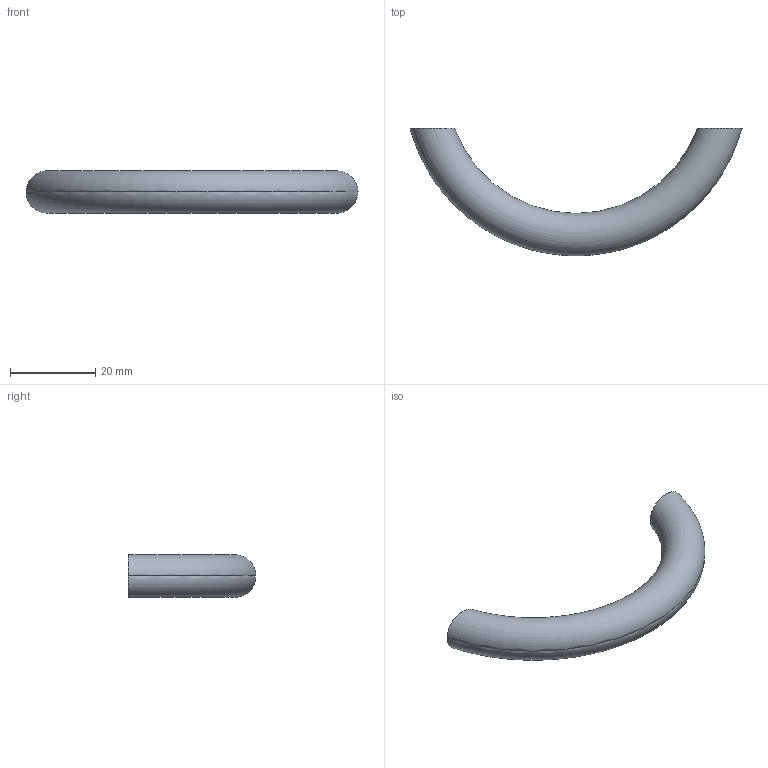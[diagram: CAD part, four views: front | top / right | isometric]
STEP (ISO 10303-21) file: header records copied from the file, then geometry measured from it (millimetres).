
FILE_DESCRIPTION( ( '' ), '1' );
FILE_NAME( 'D:/1.AUTOCAD EXPORT/Group 10/sheet_10_1/ 9070440.stp', '2013-10-21T12:39:57', ( '' ), ( '' ), ' ', ' ', ' ' );
FILE_SCHEMA( ( 'automotive_design' ) );
Length unit declared in the file: millimetre
Products named in the file (1): 1
Bounding box: 78 x 29.95 x 10 mm (x, y, z)
Volume: 6919.8 mm3; surface area: 3143.2 mm2
Topology: 1 solids, 1 shells, 10 faces, 18 edges, 12 vertices
Faces by surface type: cylinder 4, plane 4, torus 2
Entity records: 630 total; most frequent: CARTESIAN_POINT 173, DIRECTION 46, STYLED_ITEM 41, PRESENTATION_STYLE_ASSIGNMENT 41, COLOUR_RGB 41, ORIENTED_EDGE 36, AXIS2_PLACEMENT_3D 21, EDGE_CURVE 18
